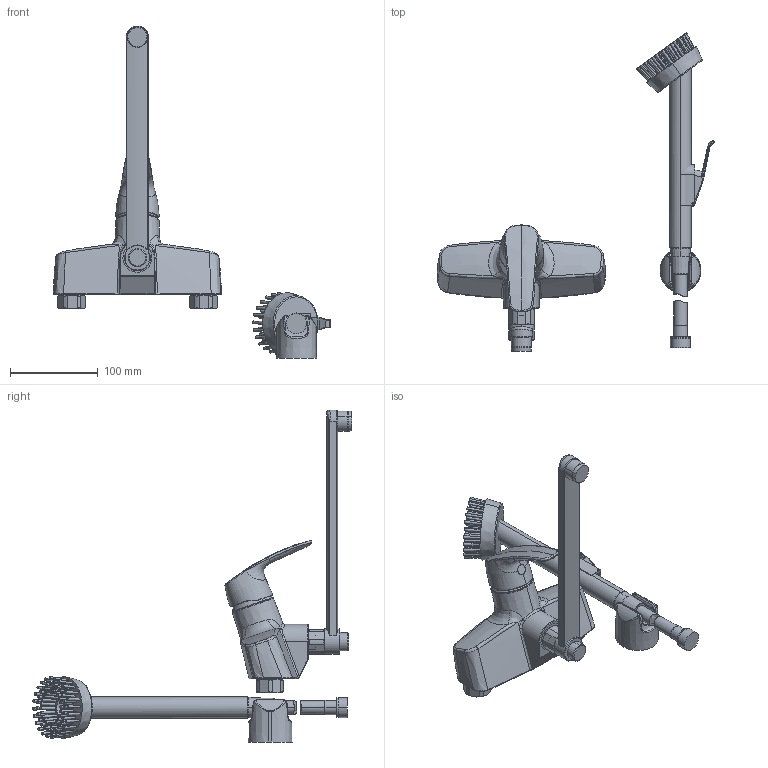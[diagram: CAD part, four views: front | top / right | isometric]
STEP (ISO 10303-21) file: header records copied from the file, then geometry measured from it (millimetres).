
FILE_DESCRIPTION (( 'STEP AP203' ), '1' );
FILE_NAME ('1077(2017).STEP', '2018-04-26T09:57:01', ( '' ), ( '' ), 'SwSTEP 2.0', 'SolidWorks 2016', '' );
FILE_SCHEMA (( 'CONFIG_CONTROL_DESIGN' ));
Length unit declared in the file: millimetre
Products named in the file (1): 1077(2017)
Bounding box: 315.26 x 363.08 x 377.56 mm (x, y, z)
Volume: 1045055.1 mm3; surface area: 172070.6 mm2
Topology: 18 solids, 18 shells, 671 faces, 1463 edges, 909 vertices
Faces by surface type: cone 209, plane 173, bspline 160, cylinder 109, torus 16, sphere 4
Entity records: 38071 total; most frequent: CARTESIAN_POINT 25311, ORIENTED_EDGE 2918, DIRECTION 2079, EDGE_CURVE 1459, VERTEX_POINT 909, AXIS2_PLACEMENT_3D 856, EDGE_LOOP 758, FACE_OUTER_BOUND 671
